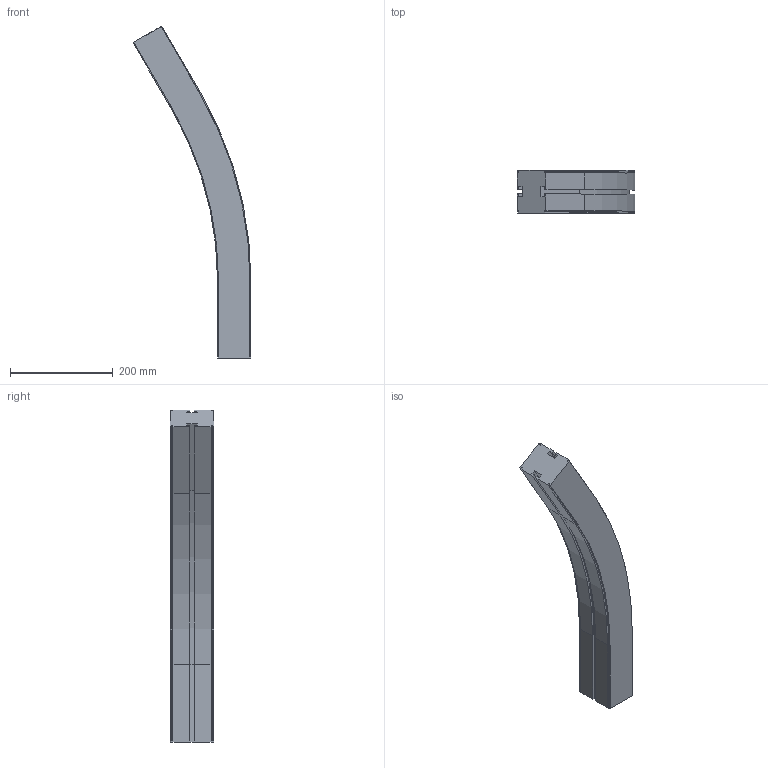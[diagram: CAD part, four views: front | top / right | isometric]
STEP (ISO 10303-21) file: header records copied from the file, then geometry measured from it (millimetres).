
FILE_DESCRIPTION (( 'STEP AP214' ), '1' );
FILE_NAME ('CS SL Horizontaalbocht.65 30° R700.STEP', '2017-02-08T07:35:27', ( '' ), ( '' ), 'SwSTEP 2.0', 'SolidWorks 2016', '' );
FILE_SCHEMA (( 'AUTOMOTIVE_DESIGN' ));
Length unit declared in the file: millimetre
Products named in the file (1): CS SL Horizontaalbocht.65 30° R700
Bounding box: 229.43 x 84 x 646.15 mm (x, y, z)
Volume: 3369007.7 mm3; surface area: 279356.2 mm2
Topology: 1 solids, 1 shells, 98 faces, 272 edges, 176 vertices
Faces by surface type: plane 72, cylinder 18, cone 8
Entity records: 3126 total; most frequent: CARTESIAN_POINT 547, ORIENTED_EDGE 544, DIRECTION 514, EDGE_CURVE 272, VECTOR 228, LINE 228, VERTEX_POINT 176, AXIS2_PLACEMENT_3D 143
